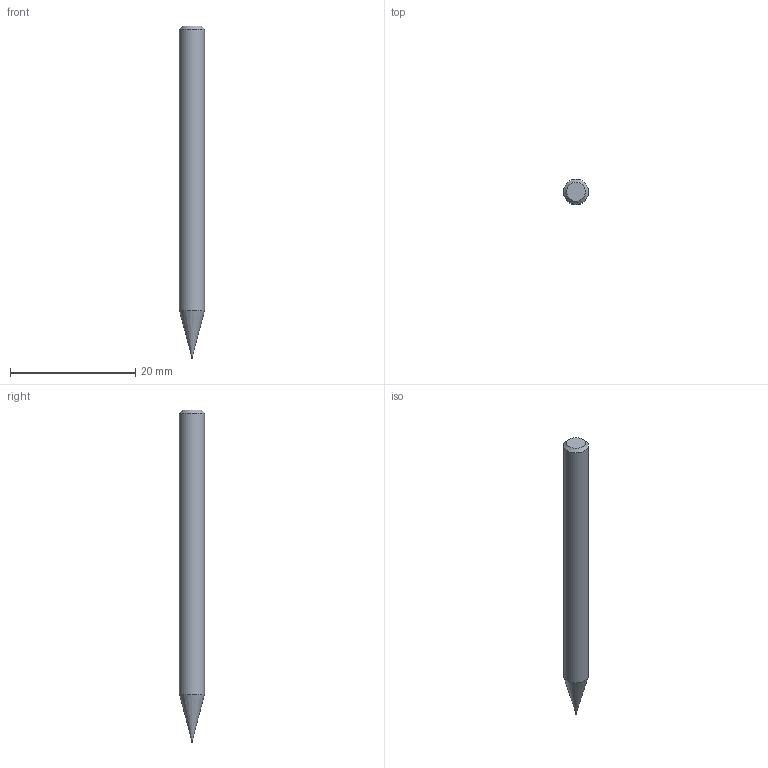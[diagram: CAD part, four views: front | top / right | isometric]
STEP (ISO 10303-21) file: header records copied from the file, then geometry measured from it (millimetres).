
FILE_DESCRIPTION((''),'2;1');
FILE_NAME('C:\Users\nsx150\AppData\Local\Temp\Mastercam 2021\LJSIDMOTM8\TEMP.step','2021-08-03T14:20:50',(''),(''),'STEP Write','Mastercam 2021 ... CNC Software, Inc.','');
FILE_SCHEMA(('AUTOMOTIVE_DESIGN'));
Length unit declared in the file: millimetre
Products named in the file (1): None
Bounding box: 4 x 4 x 53 mm (x, y, z)
Volume: 601.3 mm3; surface area: 628.6 mm2
Topology: 2 solids, 2 shells, 9 faces, 12 edges, 7 vertices
Faces by surface type: plane 4, cylinder 3, cone 2
Full cylindrical faces by diameter (mm): 0.075 x1, 0.1 x1, 4 x1
Entity records: 211 total; most frequent: DIRECTION 36, CARTESIAN_POINT 25, AXIS2_PLACEMENT_3D 18, ORIENTED_EDGE 14, EDGE_LOOP 14, STYLED_ITEM 12, ADVANCED_FACE 9, FACE_BOUND 8
